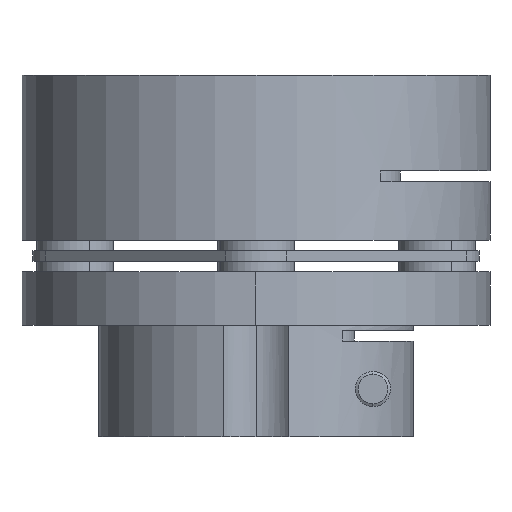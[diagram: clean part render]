
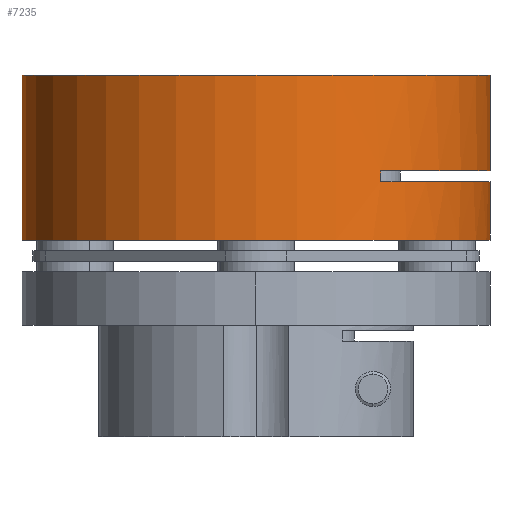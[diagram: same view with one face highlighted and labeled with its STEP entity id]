
A CAD part, front view. The second image highlights one B-rep face of the part: STEP entity #7235.
In plain terms, the highlighted cylindrical face has radius 22 mm (diameter 44 mm), a partial arc.
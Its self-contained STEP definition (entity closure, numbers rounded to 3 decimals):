
#114 = CARTESIAN_POINT ( 'NONE',  ( 27.562, 49.072, 87.886 ) ) ;
#258 = VECTOR ( 'NONE', #11634, 1000. ) ;
#336 = DIRECTION ( 'NONE',  ( 0., 0., 1. ) ) ;
#384 = VECTOR ( 'NONE', #3442, 1000. ) ;
#440 = AXIS2_PLACEMENT_3D ( 'NONE', #5478, #4407, #4499 ) ;
#484 = DIRECTION ( 'NONE',  ( -1., 0., 0. ) ) ;
#543 = CARTESIAN_POINT ( 'NONE',  ( 27.562, 49.072, 93.386 ) ) ;
#638 = DIRECTION ( 'NONE',  ( 0., 0., -1. ) ) ;
#709 = LINE ( 'NONE', #11295, #384 ) ;
#1091 = CIRCLE ( 'NONE', #3813, 22. ) ;
#1248 = CARTESIAN_POINT ( 'NONE',  ( -16.438, 49.072, 103.386 ) ) ;
#1872 = DIRECTION ( 'NONE',  ( 0., 0., 1. ) ) ;
#2048 = EDGE_LOOP ( 'NONE', ( #8349, #4845, #12867, #9301, #3737, #3685, #2329, #4124 ) ) ;
#2162 = CARTESIAN_POINT ( 'NONE',  ( 27.562, 49.072, 103.386 ) ) ;
#2189 = VERTEX_POINT ( 'NONE', #2212 ) ;
#2212 = CARTESIAN_POINT ( 'NONE',  ( -16.438, 49.072, 87.886 ) ) ;
#2223 = VERTEX_POINT ( 'NONE', #4258 ) ;
#2329 = ORIENTED_EDGE ( 'NONE', *, *, #6167, .F. ) ;
#2439 = EDGE_CURVE ( 'NONE', #2189, #8431, #4614, .T. ) ;
#2555 = EDGE_CURVE ( 'NONE', #11196, #2189, #709, .T. ) ;
#2704 = AXIS2_PLACEMENT_3D ( 'NONE', #7874, #1872, #8876 ) ;
#2922 = LINE ( 'NONE', #9675, #258 ) ;
#2963 = CYLINDRICAL_SURFACE ( 'NONE', #440, 22. ) ;
#3232 = VERTEX_POINT ( 'NONE', #543 ) ;
#3442 = DIRECTION ( 'NONE',  ( 0., 0., -1. ) ) ;
#3642 = EDGE_CURVE ( 'NONE', #5418, #12301, #6765, .T. ) ;
#3685 = ORIENTED_EDGE ( 'NONE', *, *, #12205, .T. ) ;
#3737 = ORIENTED_EDGE ( 'NONE', *, *, #12435, .F. ) ;
#3813 = AXIS2_PLACEMENT_3D ( 'NONE', #6614, #638, #7642 ) ;
#4008 = CARTESIAN_POINT ( 'NONE',  ( 17.272, 30.448, 93.386 ) ) ;
#4124 = ORIENTED_EDGE ( 'NONE', *, *, #3642, .F. ) ;
#4199 = VECTOR ( 'NONE', #7197, 1000. ) ;
#4224 = FACE_OUTER_BOUND ( 'NONE', #2048, .T. ) ;
#4258 = CARTESIAN_POINT ( 'NONE',  ( 27.562, 49.072, 103.386 ) ) ;
#4407 = DIRECTION ( 'NONE',  ( 0., 0., -1. ) ) ;
#4499 = DIRECTION ( 'NONE',  ( -1., 0., 0. ) ) ;
#4503 = LINE ( 'NONE', #2162, #4199 ) ;
#4614 = CIRCLE ( 'NONE', #12274, 22. ) ;
#4845 = ORIENTED_EDGE ( 'NONE', *, *, #4956, .F. ) ;
#4956 = EDGE_CURVE ( 'NONE', #11196, #2223, #11647, .T. ) ;
#5418 = VERTEX_POINT ( 'NONE', #11814 ) ;
#5478 = CARTESIAN_POINT ( 'NONE',  ( 5.562, 49.072, 103.386 ) ) ;
#5802 = CARTESIAN_POINT ( 'NONE',  ( 17.272, 30.448, 94.386 ) ) ;
#6167 = EDGE_CURVE ( 'NONE', #12301, #7362, #2922, .T. ) ;
#6341 = CARTESIAN_POINT ( 'NONE',  ( 5.562, 49.072, 87.886 ) ) ;
#6465 = DIRECTION ( 'NONE',  ( 0., 0., -1. ) ) ;
#6614 = CARTESIAN_POINT ( 'NONE',  ( 5.562, 49.072, 93.386 ) ) ;
#6669 = VECTOR ( 'NONE', #10483, 1000. ) ;
#6765 = CIRCLE ( 'NONE', #9194, 22. ) ;
#7010 = LINE ( 'NONE', #7501, #6669 ) ;
#7197 = DIRECTION ( 'NONE',  ( 0., 0., -1. ) ) ;
#7235 = ADVANCED_FACE ( 'NONE', ( #4224 ), #2963, .T. ) ;
#7355 = DIRECTION ( 'NONE',  ( 1., 0., 0. ) ) ;
#7362 = VERTEX_POINT ( 'NONE', #4008 ) ;
#7501 = CARTESIAN_POINT ( 'NONE',  ( 27.562, 49.072, 103.386 ) ) ;
#7642 = DIRECTION ( 'NONE',  ( -1., 0., 0. ) ) ;
#7874 = CARTESIAN_POINT ( 'NONE',  ( 5.562, 49.072, 103.386 ) ) ;
#8349 = ORIENTED_EDGE ( 'NONE', *, *, #8639, .F. ) ;
#8431 = VERTEX_POINT ( 'NONE', #114 ) ;
#8639 = EDGE_CURVE ( 'NONE', #2223, #5418, #7010, .T. ) ;
#8876 = DIRECTION ( 'NONE',  ( 1., 0., 0. ) ) ;
#9194 = AXIS2_PLACEMENT_3D ( 'NONE', #12404, #6465, #484 ) ;
#9301 = ORIENTED_EDGE ( 'NONE', *, *, #2439, .T. ) ;
#9675 = CARTESIAN_POINT ( 'NONE',  ( 17.272, 30.448, 94.386 ) ) ;
#10483 = DIRECTION ( 'NONE',  ( 0., 0., -1. ) ) ;
#11196 = VERTEX_POINT ( 'NONE', #1248 ) ;
#11295 = CARTESIAN_POINT ( 'NONE',  ( -16.438, 49.072, 103.386 ) ) ;
#11634 = DIRECTION ( 'NONE',  ( 0., 0., -1. ) ) ;
#11647 = CIRCLE ( 'NONE', #2704, 22. ) ;
#11814 = CARTESIAN_POINT ( 'NONE',  ( 27.562, 49.072, 94.386 ) ) ;
#12205 = EDGE_CURVE ( 'NONE', #3232, #7362, #1091, .T. ) ;
#12274 = AXIS2_PLACEMENT_3D ( 'NONE', #6341, #336, #7355 ) ;
#12301 = VERTEX_POINT ( 'NONE', #5802 ) ;
#12404 = CARTESIAN_POINT ( 'NONE',  ( 5.562, 49.072, 94.386 ) ) ;
#12435 = EDGE_CURVE ( 'NONE', #3232, #8431, #4503, .T. ) ;
#12867 = ORIENTED_EDGE ( 'NONE', *, *, #2555, .T. ) ;
